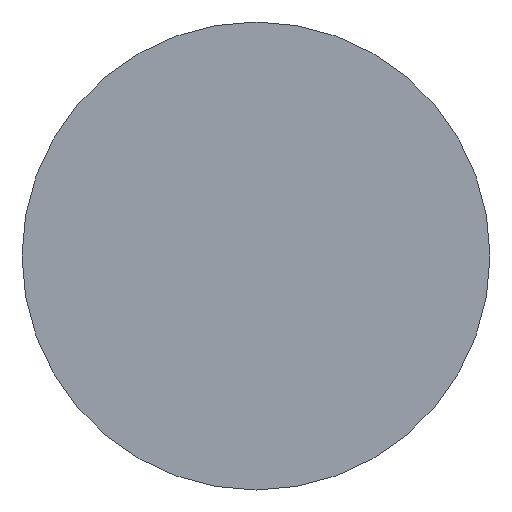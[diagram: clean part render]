
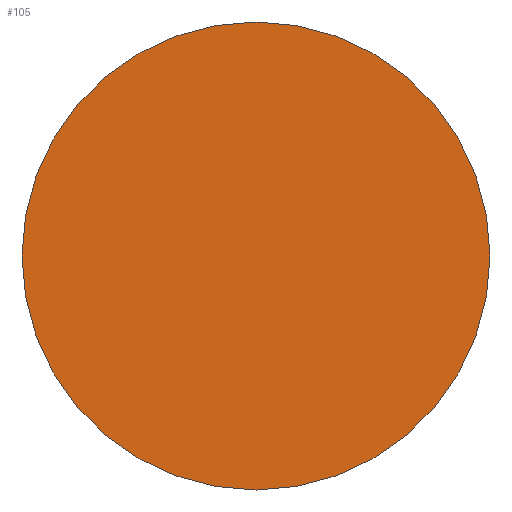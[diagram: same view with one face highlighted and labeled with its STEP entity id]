
A CAD part, front view. The second image highlights one B-rep face of the part: STEP entity #105.
In plain terms, the highlighted planar face has unit normal (0, -1, 0).
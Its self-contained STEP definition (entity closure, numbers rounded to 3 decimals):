
#22 = VERTEX_POINT('',#23);
#23 = CARTESIAN_POINT('',(88.05,1.2,-212.));
#32 = CYLINDRICAL_SURFACE('',#33,4.8);
#33 = AXIS2_PLACEMENT_3D('',#34,#35,#36);
#34 = CARTESIAN_POINT('',(83.25,1.2,-212.));
#35 = DIRECTION('',(0.,-1.,-0.));
#36 = DIRECTION('',(1.,0.,0.));
#79 = EDGE_CURVE('',#22,#22,#80,.T.);
#80 = SURFACE_CURVE('',#81,(#86,#93),.PCURVE_S1.);
#81 = CIRCLE('',#82,4.8);
#82 = AXIS2_PLACEMENT_3D('',#83,#84,#85);
#83 = CARTESIAN_POINT('',(83.25,1.2,-212.));
#84 = DIRECTION('',(-0.,1.,0.));
#85 = DIRECTION('',(1.,0.,0.));
#86 = PCURVE('',#32,#87);
#87 = DEFINITIONAL_REPRESENTATION('',(#88),#92);
#88 = LINE('',#89,#90);
#89 = CARTESIAN_POINT('',(-0.,0.));
#90 = VECTOR('',#91,1.);
#91 = DIRECTION('',(-1.,0.));
#92 = ( GEOMETRIC_REPRESENTATION_CONTEXT(2) 
PARAMETRIC_REPRESENTATION_CONTEXT() REPRESENTATION_CONTEXT('2D SPACE',''
  ) );
#93 = PCURVE('',#94,#99);
#94 = PLANE('',#95);
#95 = AXIS2_PLACEMENT_3D('',#96,#97,#98);
#96 = CARTESIAN_POINT('',(83.25,1.2,-212.));
#97 = DIRECTION('',(0.,1.,0.));
#98 = DIRECTION('',(0.,-0.,1.));
#99 = DEFINITIONAL_REPRESENTATION('',(#100),#104);
#100 = CIRCLE('',#101,4.8);
#101 = AXIS2_PLACEMENT_2D('',#102,#103);
#102 = CARTESIAN_POINT('',(0.,0.));
#103 = DIRECTION('',(0.,1.));
#104 = ( GEOMETRIC_REPRESENTATION_CONTEXT(2) 
PARAMETRIC_REPRESENTATION_CONTEXT() REPRESENTATION_CONTEXT('2D SPACE',''
  ) );
#105 = ADVANCED_FACE('',(#106),#94,.F.);
#106 = FACE_BOUND('',#107,.F.);
#107 = EDGE_LOOP('',(#108));
#108 = ORIENTED_EDGE('',*,*,#79,.T.);
